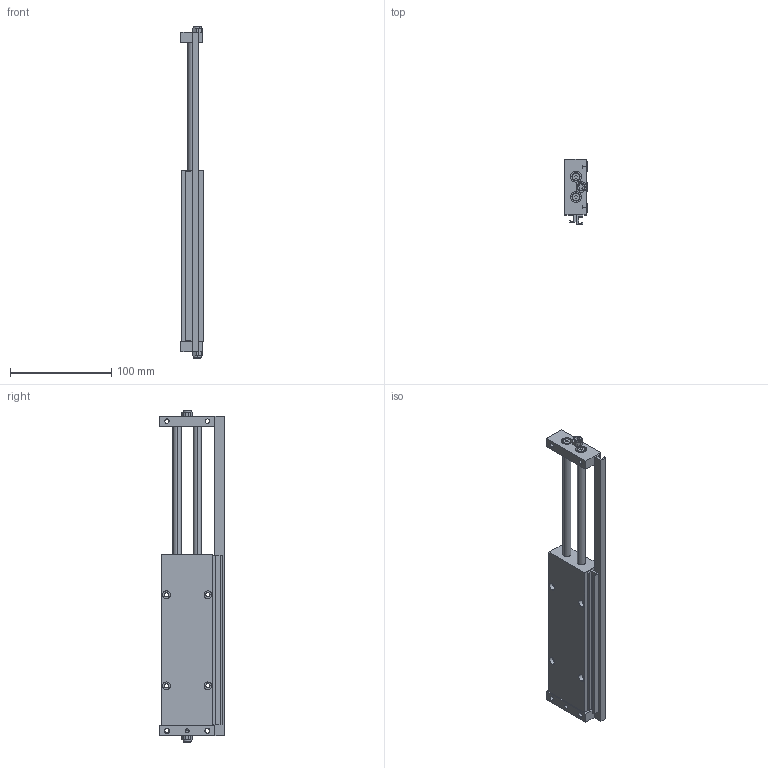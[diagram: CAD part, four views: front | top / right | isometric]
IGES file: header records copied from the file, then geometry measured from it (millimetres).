
Global section: file name: No Iges File Name specified; native system: Autodesk Inventor 2011; preprocessor: AutoDesk Inventor Iges Exporter R2011; author: nozzaem1; date: 20110516.134029; units: millimetre
Bounding box: 22 x 64.6 x 328 mm (x, y, z)
Volume: 221771.7 mm3; surface area: 82425.1 mm2
Topology: 8 solids, 8 shells, 295 faces, 686 edges, 447 vertices
Faces by surface type: plane 122, bspline 95, cylinder 38, revolution 20, cone 20
